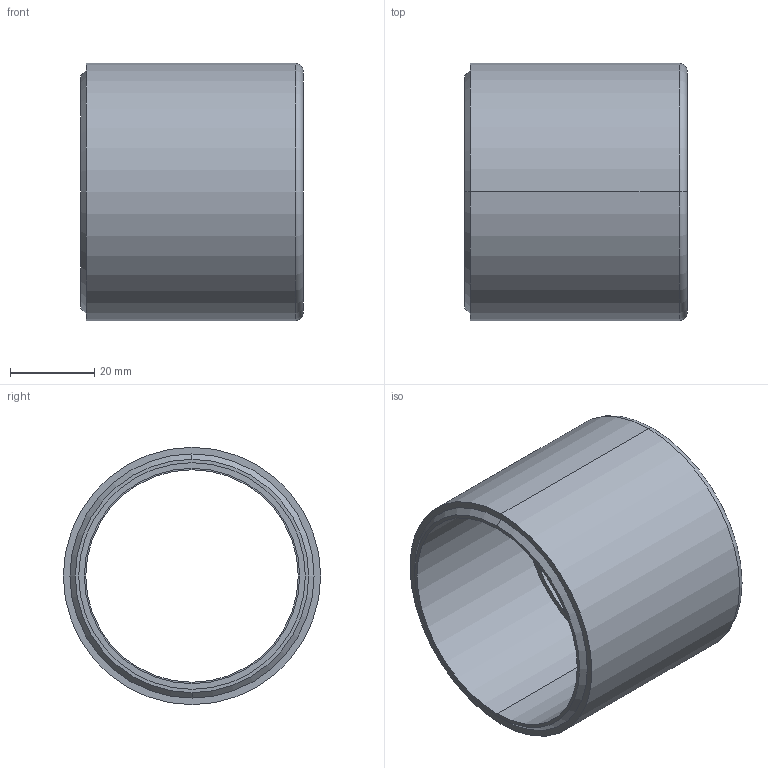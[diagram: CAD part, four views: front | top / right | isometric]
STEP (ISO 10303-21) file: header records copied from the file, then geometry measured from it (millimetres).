
FILE_DESCRIPTION (( 'STEP AP214' ), '1' );
FILE_NAME ('CR-INFV-13-14.STEP', '2020-12-10T17:00:18', ( '' ), ( '' ), 'SwSTEP 2.0', 'SolidWorks 2019', '' );
FILE_SCHEMA (( 'AUTOMOTIVE_DESIGN' ));
Length unit declared in the file: inch
Products named in the file (1): CR-INFV-13-14
Bounding box: 52.75 x 61.01 x 61.01 mm (x, y, z)
Volume: 38286 mm3; surface area: 20399.1 mm2
Topology: 1 solids, 1 shells, 20 faces, 40 edges, 26 vertices
Faces by surface type: cylinder 10, plane 6, cone 2, torus 2
Entity records: 840 total; most frequent: DIRECTION 110, CARTESIAN_POINT 87, ORIENTED_EDGE 80, AXIS2_PLACEMENT_3D 49, EDGE_CURVE 40, CIRCLE 28, EDGE_LOOP 26, VERTEX_POINT 26
